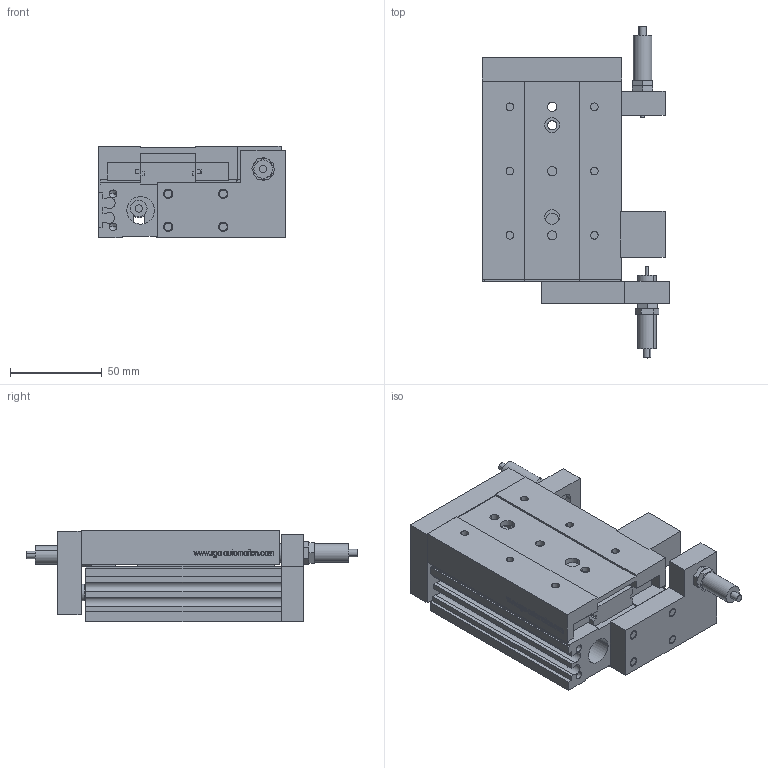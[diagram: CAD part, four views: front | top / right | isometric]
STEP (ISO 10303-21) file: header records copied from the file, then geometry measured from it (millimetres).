
FILE_DESCRIPTION (( 'STEP AP203' ), '1' );
FILE_NAME ('GDX 20-50.STEP', '2013-02-27T13:03:49', ( 'Conseil Régional Haute-Normandie' ), ( 'Conseil Régional Haute-Normandie' ), 'SwSTEP 2.0', 'SolidWorks 2010', '' );
FILE_SCHEMA (( 'CONFIG_CONTROL_DESIGN' ));
Length unit declared in the file: millimetre
Products named in the file (14): Pièce 10 GDX 20-50_Default; Pièce9 GDX 20-10_Default; Pièce14 GDX 20-10_Default; Pièce1 GDX 20-10_Default; GDX 20-50; Pièce11 GDX 20-50_Default; Pièce 12 GDX 20-50_Default; Pièce13 GDX 20-50_Default; Pièce16 GDX 20-10_Default; Pièce15 GDX 20-10_Default; Pièce7 GDX 20-10_Default; Pièce4 GDX 20-10_Default; Pièce3 GDX 20-10_Default; Pièce2 GDX 20-10_Default
Assembly tree (29 placements, depth 2):
  GDX 20-50
    Pièce14 GDX 20-10_Default  x4
    Pièce 12 GDX 20-50_Default
    Pièce4 GDX 20-10_Default  x2
    Pièce15 GDX 20-10_Default  x8
    Pièce9 GDX 20-10_Default  x2
    Pièce16 GDX 20-10_Default  x4
    Pièce1 GDX 20-10_Default
    Pièce 10 GDX 20-50_Default
    Pièce2 GDX 20-10_Default
    Pièce13 GDX 20-50_Default  x2
    Pièce7 GDX 20-10_Default
    Pièce3 GDX 20-10_Default
    Pièce11 GDX 20-50_Default
Bounding box: 102 x 180.83 x 50 mm (x, y, z)
Volume: 395768.6 mm3; surface area: 127025 mm2
Topology: 29 solids, 29 shells, 778 faces, 1968 edges, 1278 vertices
Faces by surface type: plane 389, cylinder 216, bspline 133, cone 40
Entity records: 31462 total; most frequent: CARTESIAN_POINT 14312, ORIENTED_EDGE 3300, DIRECTION 2762, EDGE_CURVE 1650, VERTEX_POINT 1093, VECTOR 1080, LINE 1080, AXIS2_PLACEMENT_3D 841
